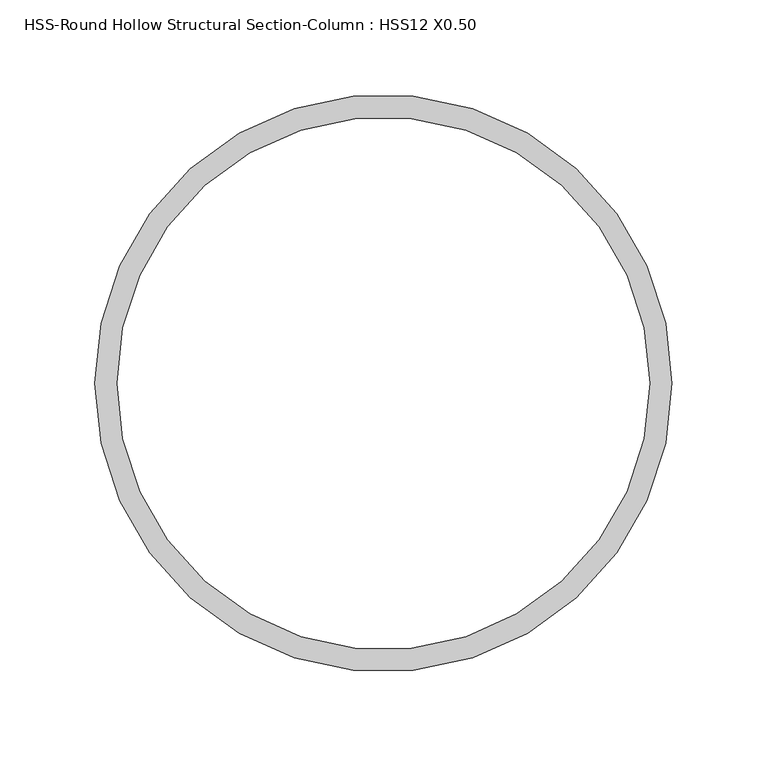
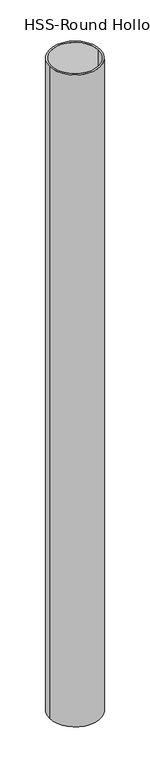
"""IFC4 building model written with IfcOpenShell, lengths in millimetres: column geometry, HSS-Round Hollow Structural Section-Column : HSS12 X0.50."""

from ifc_helpers import new_model, si_unit, point, frame, origin, origin_2d, place, context, project, spatial, circle_curve, trimmed, segment, composite_curve, outline, extrude, source, transform, mapped, element, save


def hss_round_hollow_structural_section_column_hss12_x0_50_0d9d4bae(model_context):
    return source(origin(), model_context, "Body", "SweptSolid", [
        extrude(outline(composite_curve([segment(trimmed(circle_curve(origin_2d(), 152.4), [point((-152.4, 0.0))], [point((152.4, 0.0))], False, "CARTESIAN"), True, "CONTINUOUS"), segment(trimmed(circle_curve(origin_2d(), 152.4), [point((152.4, 0.0))], [point((-152.4, 0.0))], False, "CARTESIAN"), True, "CONTINUOUS")], self_intersect=False), holes=[composite_curve([segment(trimmed(circle_curve(origin_2d(), 140.589), [point((-140.589, 0.0))], [point((140.589, 0.0))], True, "CARTESIAN"), True, "CONTINUOUS"), segment(trimmed(circle_curve(origin_2d(), 140.589), [point((140.589, 0.0))], [point((-140.589, 0.0))], True, "CARTESIAN"), True, "CONTINUOUS")], self_intersect=False)]), frame((0.0, 0.0, 290080.7), z_axis=(0.0, 0.0, 1.0), x_axis=(1.0, 0.0, 0.0)), (0.0, 0.0, 1.0), 4114.8),
    ])


if __name__ == "__main__":
    model = new_model("IFC4")
    model_context = context("Model", 3, world=origin())
    ifc_project = project(units=[si_unit("LENGTHUNIT", "METRE", prefix="MILLI")], contexts=[model_context])
    site = spatial("IfcSite", under=ifc_project)
    building = spatial("IfcBuilding", under=site)
    placement = place(None, origin())
    hss_round_hollow_structural_section_column_hss12_x0_50_shape = hss_round_hollow_structural_section_column_hss12_x0_50_0d9d4bae(model_context)
    element("IfcColumn", 1, ObjectType="HSS-Round Hollow Structural Section-Column : HSS12 X0.50", at=placement, inside=building, context=model_context, shape_type="MappedRepresentation", body=[
        mapped(hss_round_hollow_structural_section_column_hss12_x0_50_shape, transform((0.0, 0.0, 0.0), x_axis=(1.0, 0.0, 0.0), y_axis=(0.0, 1.0, 0.0), z_axis=(0.0, 0.0, 1.0))),
    ])
    save(model, "model.ifc")
